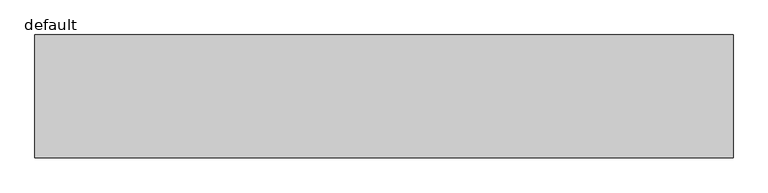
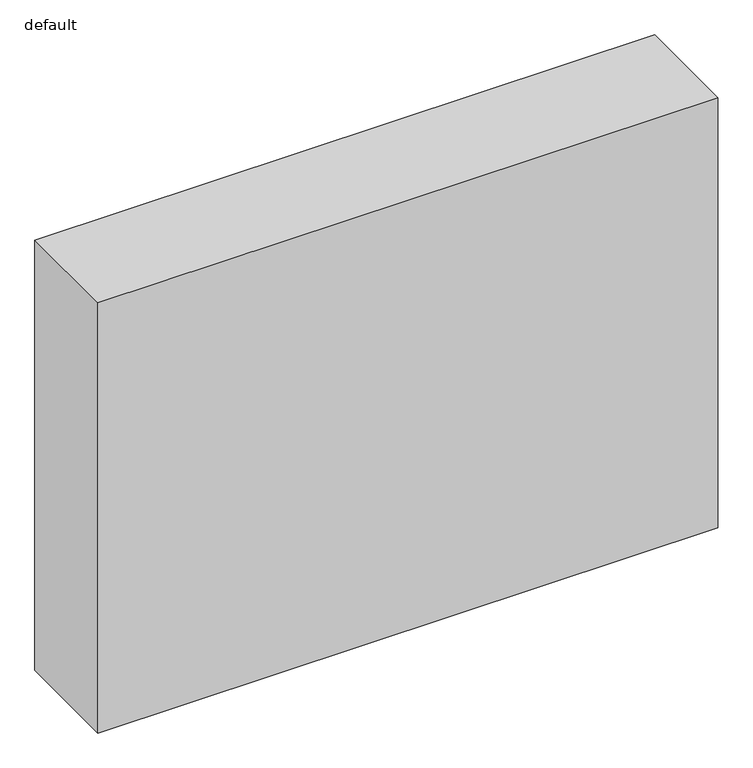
"""IFC4 building model written with IfcOpenShell, lengths in millimetres: furniture geometry, Fu_шкаф встроенный_LEG : default."""

from ifc_helpers import new_model, si_unit, origin, origin_with_axes, place, context, project, spatial, polyline, outline, extrude, source, transform, mapped, element, save


def default_f7649dbb(model_context):
    return source(origin(), model_context, "Body", "SweptSolid", [
        extrude(outline(polyline([(3405.0, 0.0), (0.0, 0.0), (0.0, 600.0), (3405.0, 600.0), (3405.0, 0.0)])), origin_with_axes(), (0.0, 0.0, 1.0), 2500.0),
    ])


if __name__ == "__main__":
    model = new_model("IFC4")
    model_context = context("Model", 3, world=origin())
    ifc_project = project(units=[si_unit("LENGTHUNIT", "METRE", prefix="MILLI")], contexts=[model_context])
    site = spatial("IfcSite", under=ifc_project)
    building = spatial("IfcBuilding", under=site)
    placement = place(None, origin())
    default_shape = default_f7649dbb(model_context)
    element("IfcFurniture", 1, ObjectType="Fu_шкаф встроенный_LEG : default", at=placement, inside=building, context=model_context, shape_type="MappedRepresentation", body=[
        mapped(default_shape, transform((0.0, 0.0, 0.0), x_axis=(1.0, 0.0, 0.0), y_axis=(0.0, 1.0, 0.0), z_axis=(0.0, 0.0, 1.0))),
    ])
    save(model, "model.ifc")
